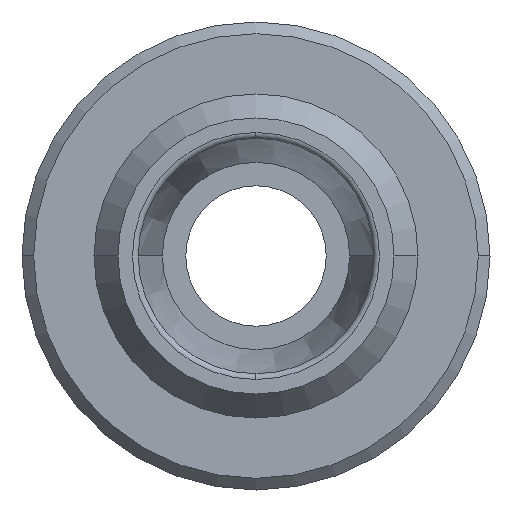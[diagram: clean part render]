
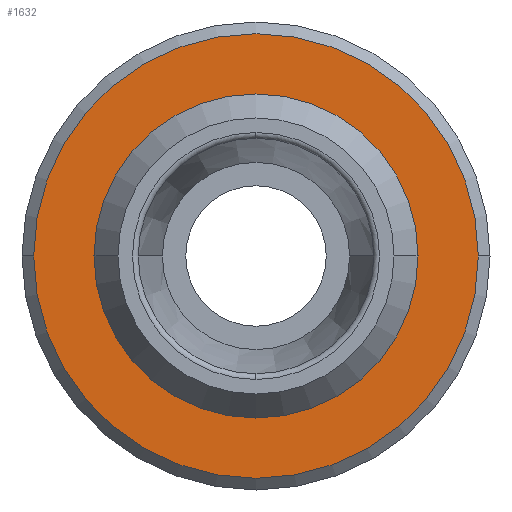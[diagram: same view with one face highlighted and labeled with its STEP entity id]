
A CAD part, left-side view. The second image highlights one B-rep face of the part: STEP entity #1632.
In plain terms, the highlighted planar face has unit normal (-1, 0, 0) as drawn and (0, 0, 1) by its records, which use the part's own axes.
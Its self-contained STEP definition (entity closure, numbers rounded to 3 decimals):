
#141=CARTESIAN_POINT('',(-9.5,0.,25.0));
#142=VERTEX_POINT('',#141);
#151=CARTESIAN_POINT('',(9.5,0.0,25.0));
#152=VERTEX_POINT('',#151);
#153=CARTESIAN_POINT('',(0.0,0.0,25.0));
#154=DIRECTION('',(0.0,0.0,-1.0));
#155=DIRECTION('',(-1.0,0.0,0.0));
#156=AXIS2_PLACEMENT_3D('',#153,#154,#155);
#157=CIRCLE('',#156,9.5);
#158=EDGE_CURVE('',#142,#152,#157,.T.);
#836=CARTESIAN_POINT('',(0.,-6.8,25.0));
#837=VERTEX_POINT('',#836);
#863=CARTESIAN_POINT('',(0.,6.8,25.0));
#864=VERTEX_POINT('',#863);
#872=CARTESIAN_POINT('',(0.,0.,25.0));
#873=DIRECTION('',(0.0,0.0,1.0));
#874=DIRECTION('',(-1.0,0.0,0.0));
#875=AXIS2_PLACEMENT_3D('',#872,#873,#874);
#876=CIRCLE('',#875,6.8);
#877=EDGE_CURVE('',#864,#837,#876,.T.);
#1558=CARTESIAN_POINT('',(6.8,0.,25.));
#1559=VERTEX_POINT('',#1558);
#1560=CARTESIAN_POINT('',(0.,0.,25.0));
#1561=DIRECTION('',(0.0,0.0,1.0));
#1562=DIRECTION('',(-1.0,0.0,0.0));
#1563=AXIS2_PLACEMENT_3D('',#1560,#1561,#1562);
#1564=CIRCLE('',#1563,6.8);
#1565=EDGE_CURVE('',#837,#1559,#1564,.T.);
#1567=CARTESIAN_POINT('',(0.,0.,25.0));
#1568=DIRECTION('',(0.0,0.0,1.0));
#1569=DIRECTION('',(-1.0,0.0,0.0));
#1570=AXIS2_PLACEMENT_3D('',#1567,#1568,#1569);
#1571=CIRCLE('',#1570,6.8);
#1572=EDGE_CURVE('',#1559,#864,#1571,.T.);
#1612=CARTESIAN_POINT('',(0.909,0.,25.0));
#1613=DIRECTION('',(0.0,0.0,1.0));
#1614=DIRECTION('',(1.0,0.0,0.0));
#1615=AXIS2_PLACEMENT_3D('',#1612,#1613,#1614);
#1616=PLANE('',#1615);
#1617=CARTESIAN_POINT('',(0.0,0.0,25.0));
#1618=DIRECTION('',(0.0,0.0,-1.0));
#1619=DIRECTION('',(-1.0,0.0,0.0));
#1620=AXIS2_PLACEMENT_3D('',#1617,#1618,#1619);
#1621=CIRCLE('',#1620,9.5);
#1622=EDGE_CURVE('',#152,#142,#1621,.T.);
#1623=ORIENTED_EDGE('',*,*,#1622,.F.);
#1624=ORIENTED_EDGE('',*,*,#158,.F.);
#1625=EDGE_LOOP('',(#1623,#1624));
#1626=FACE_OUTER_BOUND('',#1625,.T.);
#1627=ORIENTED_EDGE('',*,*,#1572,.F.);
#1628=ORIENTED_EDGE('',*,*,#1565,.F.);
#1629=ORIENTED_EDGE('',*,*,#877,.F.);
#1630=EDGE_LOOP('',(#1627,#1628,#1629));
#1631=FACE_BOUND('',#1630,.T.);
#1632=ADVANCED_FACE('',(#1626,#1631),#1616,.T.);
